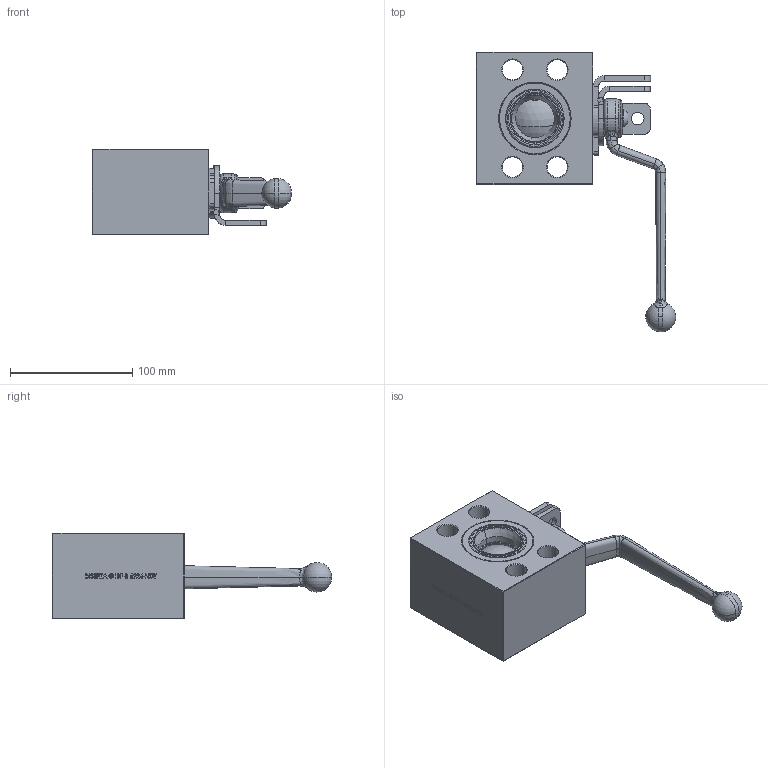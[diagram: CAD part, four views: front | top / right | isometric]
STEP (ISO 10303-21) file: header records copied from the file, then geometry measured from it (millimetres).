
FILE_DESCRIPTION (( 'STEP AP214' ), '1' );
FILE_NAME ('IBF-B-6224-N-D-T- CLOSED.STEP', '2026-02-19T15:28:09', ( '' ), ( '' ), 'SwSTEP 2.0', 'SolidWorks 2025', '' );
FILE_SCHEMA (( 'AUTOMOTIVE_DESIGN' ));
Length unit declared in the file: inch
Products named in the file (1): IBF-B-6224-N-D-T- CLOSED
Bounding box: 162.77 x 228.09 x 69.85 mm (x, y, z)
Volume: 650568.3 mm3; surface area: 126350.2 mm2
Topology: 2 solids, 3 shells, 1067 faces, 2938 edges, 1911 vertices
Faces by surface type: plane 509, bspline 209, cylinder 168, cone 80, torus 70, sphere 31
Entity records: 61320 total; most frequent: CARTESIAN_POINT 36015, ORIENTED_EDGE 5868, DIRECTION 4387, EDGE_CURVE 2934, VERTEX_POINT 1911, AXIS2_PLACEMENT_3D 1487, LINE 1413, VECTOR 1413
